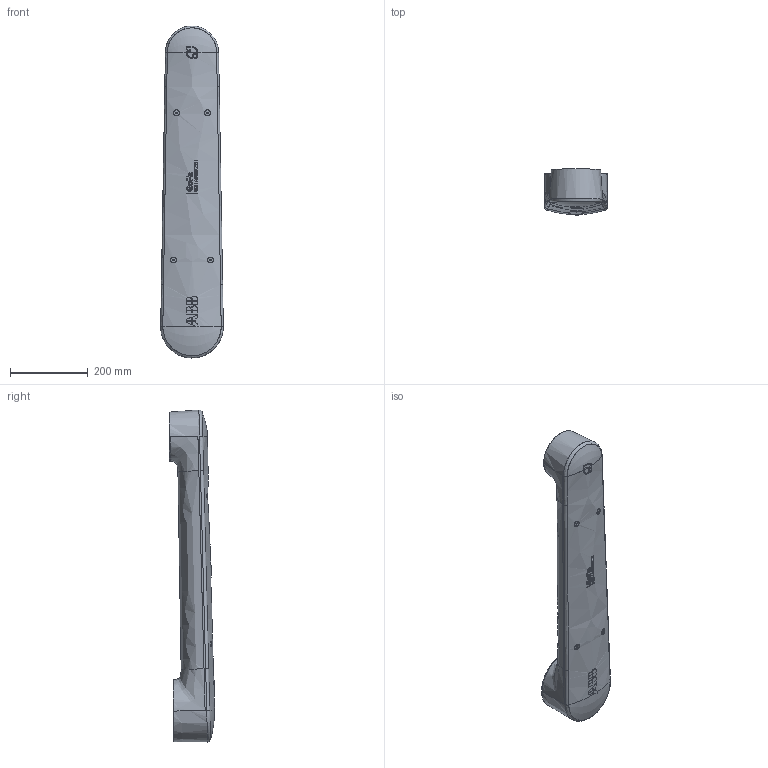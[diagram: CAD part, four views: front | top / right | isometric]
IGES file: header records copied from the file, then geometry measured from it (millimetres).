
Start section: SolidWorks IGES file using analytic representation for surfaces
Global section: file name: C:\data\sap_doc\500000125163\M12\CRB15000_12kg-127_Omnicore_rev00_LINK02_CAD.igs; native system: SolidWorks 2022; preprocessor: SolidWorks 2022; author: CNTAFEN; date: 230705.154205; units: millimetre
Bounding box: 161.52 x 117.36 x 856.37 mm (x, y, z)
Surface area: 359939.5 mm2 (no closed solid volume)
Topology: 0 solids, 0 shells, 421 faces, 4536 edges, 4526 vertices
Faces by surface type: bspline 386, revolution 35
